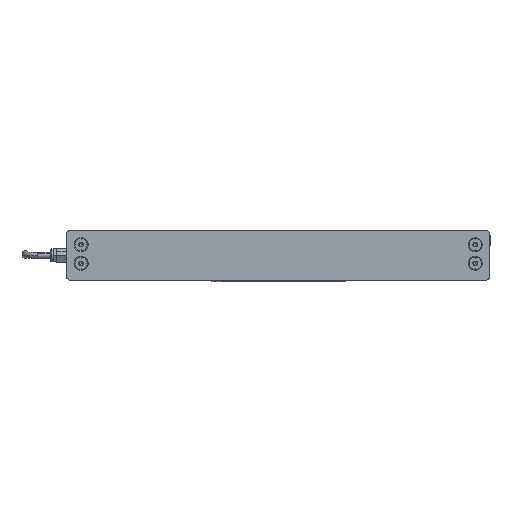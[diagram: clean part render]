
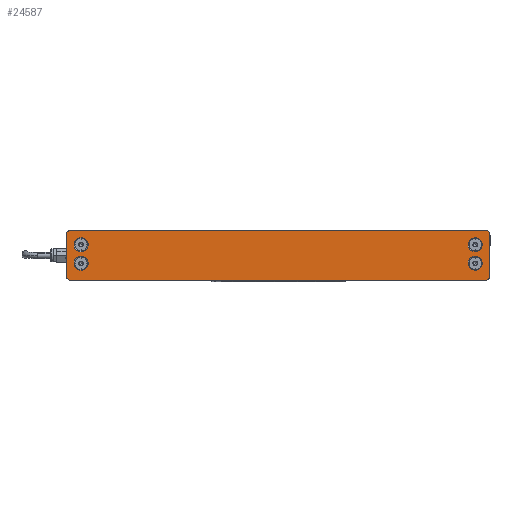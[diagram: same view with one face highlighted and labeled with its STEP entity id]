
A CAD part, left-side view. The second image highlights one B-rep face of the part: STEP entity #24587.
In plain terms, the highlighted planar face has unit normal (-1, 0, 0) as drawn and (0, 0, -1) by its records, which use the part's own axes.
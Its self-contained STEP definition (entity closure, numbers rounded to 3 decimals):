
#325 = VECTOR ( 'NONE', #18564, 1000. ) ;
#345 = AXIS2_PLACEMENT_3D ( 'NONE', #5214, #13273, #14028 ) ;
#451 = FACE_BOUND ( 'NONE', #4864, .T. ) ;
#459 = DIRECTION ( 'NONE',  ( -1., 0., 0. ) ) ;
#611 = EDGE_LOOP ( 'NONE', ( #5923, #20857 ) ) ;
#677 = DIRECTION ( 'NONE',  ( -1., 0., 0. ) ) ;
#862 = EDGE_CURVE ( 'NONE', #10533, #17990, #2903, .T. ) ;
#875 = CARTESIAN_POINT ( 'NONE',  ( 168., 16., 0. ) ) ;
#882 = CARTESIAN_POINT ( 'NONE',  ( -150.7, -6.3, 0. ) ) ;
#1090 = CARTESIAN_POINT ( 'NONE',  ( 150.7, -6.3, 0. ) ) ;
#1121 = AXIS2_PLACEMENT_3D ( 'NONE', #3338, #25734, #5556 ) ;
#1247 = DIRECTION ( 'NONE',  ( -1., 0., 0. ) ) ;
#1424 = EDGE_CURVE ( 'NONE', #22614, #5386, #5625, .T. ) ;
#1686 = DIRECTION ( 'NONE',  ( 0., 0., -1. ) ) ;
#1716 = VERTEX_POINT ( 'NONE', #24264 ) ;
#2033 = CARTESIAN_POINT ( 'NONE',  ( 150.7, 8.5, 0. ) ) ;
#2227 = CARTESIAN_POINT ( 'NONE',  ( 161.9, -6.3, 0. ) ) ;
#2575 = DIRECTION ( 'NONE',  ( -1., 0., 0. ) ) ;
#2890 = CIRCLE ( 'NONE', #345, 5.6 ) ;
#2903 = CIRCLE ( 'NONE', #13429, 5.6 ) ;
#2957 = CARTESIAN_POINT ( 'NONE',  ( -161.9, -6.3, 0. ) ) ;
#2977 = CARTESIAN_POINT ( 'NONE',  ( -156.3, -6.3, 0. ) ) ;
#3076 = CARTESIAN_POINT ( 'NONE',  ( -164., 20., 0. ) ) ;
#3192 = CARTESIAN_POINT ( 'NONE',  ( -168., -16., 0. ) ) ;
#3320 = DIRECTION ( 'NONE',  ( -1., 0., 0. ) ) ;
#3338 = CARTESIAN_POINT ( 'NONE',  ( -164., 16., 0. ) ) ;
#3485 = EDGE_CURVE ( 'NONE', #18596, #22174, #25992, .T. ) ;
#3670 = DIRECTION ( 'NONE',  ( -1., 0., 0. ) ) ;
#3906 = DIRECTION ( 'NONE',  ( -1., 0., 0. ) ) ;
#4040 = CARTESIAN_POINT ( 'NONE',  ( -164., -20., 0. ) ) ;
#4442 = EDGE_LOOP ( 'NONE', ( #23708, #4844, #9244, #14120, #12671, #9506, #15654, #22525 ) ) ;
#4724 = DIRECTION ( 'NONE',  ( -1., 0., 0. ) ) ;
#4844 = ORIENTED_EDGE ( 'NONE', *, *, #20894, .F. ) ;
#4864 = EDGE_LOOP ( 'NONE', ( #15649, #6109 ) ) ;
#5049 = CARTESIAN_POINT ( 'NONE',  ( 156.3, -6.3, 0. ) ) ;
#5158 = DIRECTION ( 'NONE',  ( 0., 0., 1. ) ) ;
#5214 = CARTESIAN_POINT ( 'NONE',  ( 156.3, 8.5, 0. ) ) ;
#5315 = DIRECTION ( 'NONE',  ( 0., 0., -1. ) ) ;
#5386 = VERTEX_POINT ( 'NONE', #1090 ) ;
#5556 = DIRECTION ( 'NONE',  ( -1., 0., 0. ) ) ;
#5625 = CIRCLE ( 'NONE', #15739, 5.6 ) ;
#5707 = DIRECTION ( 'NONE',  ( 0., 1., 0. ) ) ;
#5923 = ORIENTED_EDGE ( 'NONE', *, *, #18381, .F. ) ;
#6021 = VERTEX_POINT ( 'NONE', #21450 ) ;
#6109 = ORIENTED_EDGE ( 'NONE', *, *, #12837, .F. ) ;
#6388 = VERTEX_POINT ( 'NONE', #20761 ) ;
#6490 = DIRECTION ( 'NONE',  ( 0., 0., -1. ) ) ;
#6510 = ORIENTED_EDGE ( 'NONE', *, *, #862, .F. ) ;
#6535 = VERTEX_POINT ( 'NONE', #13511 ) ;
#6623 = PLANE ( 'NONE',  #23197 ) ;
#6720 = DIRECTION ( 'NONE',  ( 0., 0., 1. ) ) ;
#6871 = EDGE_CURVE ( 'NONE', #25242, #24645, #20958, .T. ) ;
#7095 = DIRECTION ( 'NONE',  ( 1., 0., 0. ) ) ;
#7363 = CARTESIAN_POINT ( 'NONE',  ( 156.3, -6.3, 0. ) ) ;
#7427 = CIRCLE ( 'NONE', #9519, 5.6 ) ;
#7490 = EDGE_CURVE ( 'NONE', #17990, #10533, #10442, .T. ) ;
#7915 = VECTOR ( 'NONE', #5707, 1000. ) ;
#8015 = AXIS2_PLACEMENT_3D ( 'NONE', #17532, #25531, #7095 ) ;
#8826 = EDGE_CURVE ( 'NONE', #11880, #6535, #24749, .T. ) ;
#9244 = ORIENTED_EDGE ( 'NONE', *, *, #24011, .F. ) ;
#9284 = VERTEX_POINT ( 'NONE', #23390 ) ;
#9506 = ORIENTED_EDGE ( 'NONE', *, *, #3485, .F. ) ;
#9519 = AXIS2_PLACEMENT_3D ( 'NONE', #24509, #22658, #4724 ) ;
#9548 = VECTOR ( 'NONE', #677, 1000. ) ;
#9639 = ORIENTED_EDGE ( 'NONE', *, *, #21538, .F. ) ;
#10111 = CIRCLE ( 'NONE', #15610, 4. ) ;
#10201 = FACE_BOUND ( 'NONE', #10878, .T. ) ;
#10442 = CIRCLE ( 'NONE', #19306, 5.6 ) ;
#10450 = AXIS2_PLACEMENT_3D ( 'NONE', #7363, #25425, #3670 ) ;
#10533 = VERTEX_POINT ( 'NONE', #2957 ) ;
#10660 = ORIENTED_EDGE ( 'NONE', *, *, #1424, .F. ) ;
#10738 = DIRECTION ( 'NONE',  ( 0., 0., -1. ) ) ;
#10796 = DIRECTION ( 'NONE',  ( -1., 0., 0. ) ) ;
#10878 = EDGE_LOOP ( 'NONE', ( #9639, #10660 ) ) ;
#11524 = LINE ( 'NONE', #19574, #7915 ) ;
#11880 = VERTEX_POINT ( 'NONE', #4040 ) ;
#12189 = FACE_BOUND ( 'NONE', #18511, .T. ) ;
#12671 = ORIENTED_EDGE ( 'NONE', *, *, #23322, .F. ) ;
#12837 = EDGE_CURVE ( 'NONE', #6021, #14888, #2890, .T. ) ;
#12988 = EDGE_CURVE ( 'NONE', #24645, #25960, #24939, .T. ) ;
#13104 = DIRECTION ( 'NONE',  ( -1., 0., 0. ) ) ;
#13273 = DIRECTION ( 'NONE',  ( 0., 0., -1. ) ) ;
#13429 = AXIS2_PLACEMENT_3D ( 'NONE', #25667, #10738, #14586 ) ;
#13511 = CARTESIAN_POINT ( 'NONE',  ( 164., -20., 0. ) ) ;
#13642 = CARTESIAN_POINT ( 'NONE',  ( -156.3, 8.5, 0. ) ) ;
#14028 = DIRECTION ( 'NONE',  ( -1., 0., 0. ) ) ;
#14120 = ORIENTED_EDGE ( 'NONE', *, *, #8826, .F. ) ;
#14231 = AXIS2_PLACEMENT_3D ( 'NONE', #17043, #5158, #3320 ) ;
#14586 = DIRECTION ( 'NONE',  ( -1., 0., 0. ) ) ;
#14754 = CIRCLE ( 'NONE', #8015, 4. ) ;
#14825 = CARTESIAN_POINT ( 'NONE',  ( 164., 20., 0. ) ) ;
#14888 = VERTEX_POINT ( 'NONE', #2033 ) ;
#15449 = AXIS2_PLACEMENT_3D ( 'NONE', #13642, #5315, #1247 ) ;
#15610 = AXIS2_PLACEMENT_3D ( 'NONE', #16763, #6720, #10796 ) ;
#15649 = ORIENTED_EDGE ( 'NONE', *, *, #23967, .F. ) ;
#15654 = ORIENTED_EDGE ( 'NONE', *, *, #19646, .F. ) ;
#15739 = AXIS2_PLACEMENT_3D ( 'NONE', #5049, #25215, #13104 ) ;
#16538 = FACE_OUTER_BOUND ( 'NONE', #4442, .T. ) ;
#16763 = CARTESIAN_POINT ( 'NONE',  ( -164., -16., 0. ) ) ;
#17043 = CARTESIAN_POINT ( 'NONE',  ( 164., 16., 0. ) ) ;
#17532 = CARTESIAN_POINT ( 'NONE',  ( 164., -16., 0. ) ) ;
#17847 = ORIENTED_EDGE ( 'NONE', *, *, #7490, .F. ) ;
#17990 = VERTEX_POINT ( 'NONE', #882 ) ;
#18381 = EDGE_CURVE ( 'NONE', #1716, #9284, #21749, .T. ) ;
#18458 = CIRCLE ( 'NONE', #10450, 5.6 ) ;
#18511 = EDGE_LOOP ( 'NONE', ( #6510, #17847 ) ) ;
#18518 = CARTESIAN_POINT ( 'NONE',  ( 164., 16., 0. ) ) ;
#18564 = DIRECTION ( 'NONE',  ( 1., 0., 0. ) ) ;
#18596 = VERTEX_POINT ( 'NONE', #20466 ) ;
#18739 = CARTESIAN_POINT ( 'NONE',  ( -164., 20., 0. ) ) ;
#19306 = AXIS2_PLACEMENT_3D ( 'NONE', #2977, #20494, #459 ) ;
#19407 = AXIS2_PLACEMENT_3D ( 'NONE', #25671, #1686, #3906 ) ;
#19574 = CARTESIAN_POINT ( 'NONE',  ( 168., -16., 0. ) ) ;
#19646 = EDGE_CURVE ( 'NONE', #25960, #18596, #23862, .T. ) ;
#19840 = CARTESIAN_POINT ( 'NONE',  ( -168., -16., 0. ) ) ;
#20402 = CARTESIAN_POINT ( 'NONE',  ( -164., -20., 0. ) ) ;
#20466 = CARTESIAN_POINT ( 'NONE',  ( -168., 16., 0. ) ) ;
#20494 = DIRECTION ( 'NONE',  ( 0., 0., -1. ) ) ;
#20761 = CARTESIAN_POINT ( 'NONE',  ( 168., -16., 0. ) ) ;
#20857 = ORIENTED_EDGE ( 'NONE', *, *, #24089, .F. ) ;
#20894 = EDGE_CURVE ( 'NONE', #6388, #25242, #11524, .T. ) ;
#20958 = CIRCLE ( 'NONE', #14231, 4. ) ;
#21450 = CARTESIAN_POINT ( 'NONE',  ( 161.9, 8.5, 0. ) ) ;
#21538 = EDGE_CURVE ( 'NONE', #5386, #22614, #18458, .T. ) ;
#21749 = CIRCLE ( 'NONE', #15449, 5.6 ) ;
#21789 = DIRECTION ( 'NONE',  ( 0., -1., 0. ) ) ;
#22174 = VERTEX_POINT ( 'NONE', #3192 ) ;
#22525 = ORIENTED_EDGE ( 'NONE', *, *, #12988, .F. ) ;
#22614 = VERTEX_POINT ( 'NONE', #2227 ) ;
#22658 = DIRECTION ( 'NONE',  ( 0., 0., -1. ) ) ;
#23180 = CIRCLE ( 'NONE', #19407, 5.6 ) ;
#23197 = AXIS2_PLACEMENT_3D ( 'NONE', #18518, #6490, #2575 ) ;
#23322 = EDGE_CURVE ( 'NONE', #22174, #11880, #10111, .T. ) ;
#23390 = CARTESIAN_POINT ( 'NONE',  ( -150.7, 8.5, 0. ) ) ;
#23708 = ORIENTED_EDGE ( 'NONE', *, *, #6871, .F. ) ;
#23862 = CIRCLE ( 'NONE', #1121, 4. ) ;
#23967 = EDGE_CURVE ( 'NONE', #14888, #6021, #7427, .T. ) ;
#24011 = EDGE_CURVE ( 'NONE', #6535, #6388, #14754, .T. ) ;
#24089 = EDGE_CURVE ( 'NONE', #9284, #1716, #23180, .T. ) ;
#24264 = CARTESIAN_POINT ( 'NONE',  ( -161.9, 8.5, 0. ) ) ;
#24509 = CARTESIAN_POINT ( 'NONE',  ( 156.3, 8.5, 0. ) ) ;
#24587 = ADVANCED_FACE ( 'NONE', ( #451, #10201, #24695, #12189, #16538 ), #6623, .T. ) ;
#24645 = VERTEX_POINT ( 'NONE', #14825 ) ;
#24695 = FACE_BOUND ( 'NONE', #611, .T. ) ;
#24749 = LINE ( 'NONE', #20402, #325 ) ;
#24939 = LINE ( 'NONE', #18739, #9548 ) ;
#24941 = VECTOR ( 'NONE', #21789, 1000. ) ;
#25215 = DIRECTION ( 'NONE',  ( 0., 0., -1. ) ) ;
#25242 = VERTEX_POINT ( 'NONE', #875 ) ;
#25425 = DIRECTION ( 'NONE',  ( 0., 0., -1. ) ) ;
#25531 = DIRECTION ( 'NONE',  ( 0., 0., 1. ) ) ;
#25667 = CARTESIAN_POINT ( 'NONE',  ( -156.3, -6.3, 0. ) ) ;
#25671 = CARTESIAN_POINT ( 'NONE',  ( -156.3, 8.5, 0. ) ) ;
#25734 = DIRECTION ( 'NONE',  ( 0., 0., 1. ) ) ;
#25960 = VERTEX_POINT ( 'NONE', #3076 ) ;
#25992 = LINE ( 'NONE', #19840, #24941 ) ;
